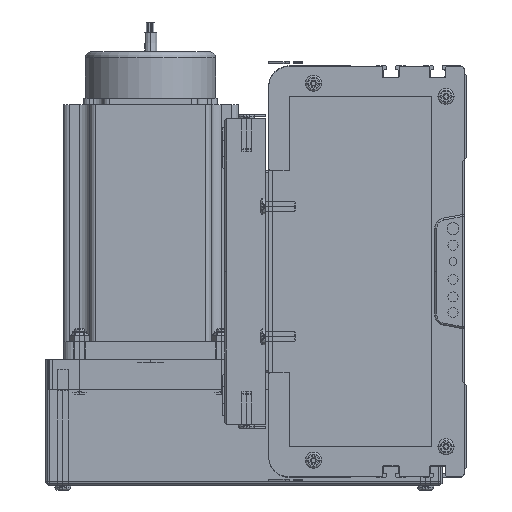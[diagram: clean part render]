
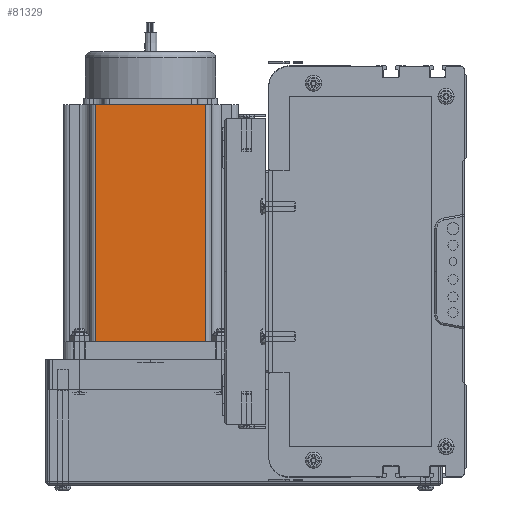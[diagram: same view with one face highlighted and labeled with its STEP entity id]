
A CAD part, left-side view. The second image highlights one B-rep face of the part: STEP entity #81329.
In plain terms, the highlighted planar face has unit normal (-1, 0, 0) as drawn and (0, -1, 0) by its records, which use the part's own axes.
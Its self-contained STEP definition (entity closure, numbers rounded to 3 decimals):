
#79976 = LINE ( 'NONE', #80874, #80760 ) ;
#80760 = VECTOR ( 'NONE', #80892, 1000. ) ;
#80874 = CARTESIAN_POINT ( 'NONE',  ( 16.16, 0., 116.5 ) ) ;
#80892 = DIRECTION ( 'NONE',  ( 0., 0., -1. ) ) ;
#81039 = ORIENTED_EDGE ( 'NONE', *, *, #81170, .T. ) ;
#81042 = ORIENTED_EDGE ( 'NONE', *, *, #81134, .T. ) ;
#81066 = EDGE_LOOP ( 'NONE', ( #81039, #81042, #81140, #81325 ) ) ;
#81085 = VERTEX_POINT ( 'NONE', #87404 ) ;
#81134 = EDGE_CURVE ( 'NONE', #81085, #81308, #87445, .T. ) ;
#81140 = ORIENTED_EDGE ( 'NONE', *, *, #81164, .F. ) ;
#81141 = VERTEX_POINT ( 'NONE', #87428 ) ;
#81164 = EDGE_CURVE ( 'NONE', #81141, #81308, #87490, .T. ) ;
#81170 = EDGE_CURVE ( 'NONE', #81324, #81085, #87494, .T. ) ;
#81188 = EDGE_CURVE ( 'NONE', #81141, #81324, #79976, .T. ) ;
#81308 = VERTEX_POINT ( 'NONE', #87667 ) ;
#81324 = VERTEX_POINT ( 'NONE', #87715 ) ;
#81325 = ORIENTED_EDGE ( 'NONE', *, *, #81188, .T. ) ;
#81329 = ADVANCED_FACE ( 'NONE', ( #87718 ), #87714, .F. ) ;
#87404 = CARTESIAN_POINT ( 'NONE',  ( 69.74, 0., 0. ) ) ;
#87428 = CARTESIAN_POINT ( 'NONE',  ( 16.16, 0., 116.5 ) ) ;
#87445 = LINE ( 'NONE', #87474, #87473 ) ;
#87471 = DIRECTION ( 'NONE',  ( 0., 0., 1. ) ) ;
#87473 = VECTOR ( 'NONE', #87471, 1000. ) ;
#87474 = CARTESIAN_POINT ( 'NONE',  ( 69.74, 0., 116.5 ) ) ;
#87489 = CARTESIAN_POINT ( 'NONE',  ( 0., 0., 116.5 ) ) ;
#87490 = LINE ( 'NONE', #87489, #87553 ) ;
#87494 = LINE ( 'NONE', #87541, #87540 ) ;
#87539 = DIRECTION ( 'NONE',  ( 1., 0., 0. ) ) ;
#87540 = VECTOR ( 'NONE', #87539, 1000. ) ;
#87541 = CARTESIAN_POINT ( 'NONE',  ( 0., 0., 0. ) ) ;
#87552 = DIRECTION ( 'NONE',  ( 1., 0., 0. ) ) ;
#87553 = VECTOR ( 'NONE', #87552, 1000. ) ;
#87667 = CARTESIAN_POINT ( 'NONE',  ( 69.74, 0., 116.5 ) ) ;
#87676 = CARTESIAN_POINT ( 'NONE',  ( 0., 0., 116.5 ) ) ;
#87707 = DIRECTION ( 'NONE',  ( 0., 0., 1. ) ) ;
#87708 = DIRECTION ( 'NONE',  ( 0., 1., 0. ) ) ;
#87714 = PLANE ( 'NONE',  #87721 ) ;
#87715 = CARTESIAN_POINT ( 'NONE',  ( 16.16, 0., 0. ) ) ;
#87718 = FACE_OUTER_BOUND ( 'NONE', #81066, .T. ) ;
#87721 = AXIS2_PLACEMENT_3D ( 'NONE', #87676, #87708, #87707 ) ;
